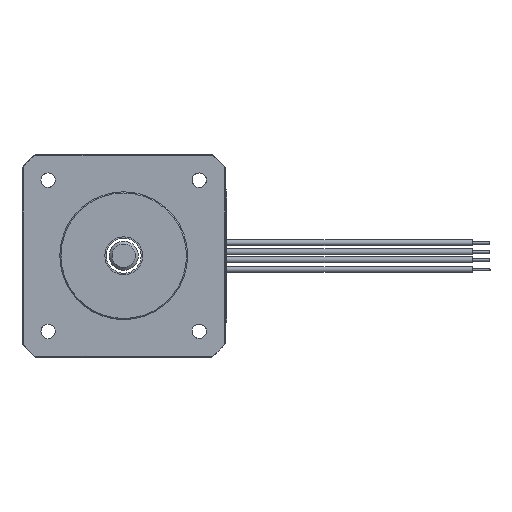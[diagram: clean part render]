
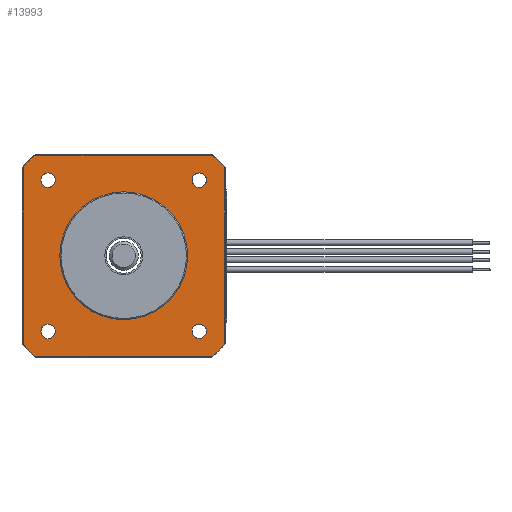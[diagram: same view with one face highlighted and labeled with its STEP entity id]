
A CAD part, left-side view. The second image highlights one B-rep face of the part: STEP entity #13993.
In plain terms, the highlighted planar face has unit normal (-1, 0, 0).
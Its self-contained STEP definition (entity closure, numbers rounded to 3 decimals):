
#12222=CARTESIAN_POINT('',(2.,-17.3,15.308));
#12223=VERTEX_POINT('',#12222);
#12224=CARTESIAN_POINT('',(2.,-17.3,-15.308));
#12225=VERTEX_POINT('',#12224);
#12226=CARTESIAN_POINT('',(2.,-17.3,15.308));
#12227=DIRECTION('',(0.,0.,-1.));
#12228=VECTOR('',#12227,30.615);
#12229=LINE('',#12226,#12228);
#12230=EDGE_CURVE('',#12223,#12225,#12229,.T.);
#12253=CARTESIAN_POINT('',(2.,-15.308,-17.3));
#12254=VERTEX_POINT('',#12253);
#12265=CARTESIAN_POINT('',(2.,0.,0.));
#12266=DIRECTION('',(0.,-0.749,-0.663));
#12267=DIRECTION('',(1.,0.,0.));
#12268=AXIS2_PLACEMENT_3D('',#12265,#12267,#12266);
#12269=CIRCLE('',#12268,23.1);
#12270=EDGE_CURVE('',#12225,#12254,#12269,.T.);
#12451=CARTESIAN_POINT('',(2.,-15.308,17.3));
#12452=VERTEX_POINT('',#12451);
#12459=CARTESIAN_POINT('',(2.,0.,0.));
#12460=DIRECTION('',(0.,-0.663,0.749));
#12461=DIRECTION('',(1.,0.,0.));
#12462=AXIS2_PLACEMENT_3D('',#12459,#12461,#12460);
#12463=CIRCLE('',#12462,23.1);
#12464=EDGE_CURVE('',#12452,#12223,#12463,.T.);
#12474=CARTESIAN_POINT('',(2.,-11.75,-13.));
#12475=VERTEX_POINT('',#12474);
#12482=CARTESIAN_POINT('',(2.,-14.25,-13.));
#12483=VERTEX_POINT('',#12482);
#12484=CARTESIAN_POINT('',(2.,-13.,-13.));
#12485=DIRECTION('',(0.,1.,0.));
#12486=DIRECTION('',(-1.,-0.,0.));
#12487=AXIS2_PLACEMENT_3D('',#12484,#12486,#12485);
#12488=CIRCLE('',#12487,1.25);
#12489=EDGE_CURVE('',#12475,#12483,#12488,.T.);
#12511=CARTESIAN_POINT('',(2.,-13.,-13.));
#12512=DIRECTION('',(0.,-1.,0.));
#12513=DIRECTION('',(-1.,0.,0.));
#12514=AXIS2_PLACEMENT_3D('',#12511,#12513,#12512);
#12515=CIRCLE('',#12514,1.25);
#12516=EDGE_CURVE('',#12483,#12475,#12515,.T.);
#12528=CARTESIAN_POINT('',(2.,15.308,-17.3));
#12529=VERTEX_POINT('',#12528);
#12530=CARTESIAN_POINT('',(2.,-15.308,-17.3));
#12531=DIRECTION('',(0.,1.,0.));
#12532=VECTOR('',#12531,30.615);
#12533=LINE('',#12530,#12532);
#12534=EDGE_CURVE('',#12254,#12529,#12533,.T.);
#12552=CARTESIAN_POINT('',(2.,17.3,-15.308));
#12553=VERTEX_POINT('',#12552);
#12571=CARTESIAN_POINT('',(2.,0.,0.));
#12572=DIRECTION('',(0.,0.663,-0.749));
#12573=DIRECTION('',(1.,0.,0.));
#12574=AXIS2_PLACEMENT_3D('',#12571,#12573,#12572);
#12575=CIRCLE('',#12574,23.1);
#12576=EDGE_CURVE('',#12529,#12553,#12575,.T.);
#12649=CARTESIAN_POINT('',(2.,13.,-11.75));
#12650=VERTEX_POINT('',#12649);
#12657=CARTESIAN_POINT('',(2.,13.,-14.25));
#12658=VERTEX_POINT('',#12657);
#12659=CARTESIAN_POINT('',(2.,13.,-13.));
#12660=DIRECTION('',(0.,0.,1.));
#12661=DIRECTION('',(-1.,0.,-0.));
#12662=AXIS2_PLACEMENT_3D('',#12659,#12661,#12660);
#12663=CIRCLE('',#12662,1.25);
#12664=EDGE_CURVE('',#12650,#12658,#12663,.T.);
#12686=CARTESIAN_POINT('',(2.,13.,-13.));
#12687=DIRECTION('',(0.,0.,-1.));
#12688=DIRECTION('',(-1.,0.,0.));
#12689=AXIS2_PLACEMENT_3D('',#12686,#12688,#12687);
#12690=CIRCLE('',#12689,1.25);
#12691=EDGE_CURVE('',#12658,#12650,#12690,.T.);
#12723=CARTESIAN_POINT('',(2.,11.75,13.));
#12724=VERTEX_POINT('',#12723);
#12731=CARTESIAN_POINT('',(2.,14.25,13.));
#12732=VERTEX_POINT('',#12731);
#12733=CARTESIAN_POINT('',(2.,13.,13.));
#12734=DIRECTION('',(0.,-1.,0.));
#12735=DIRECTION('',(-1.,0.,0.));
#12736=AXIS2_PLACEMENT_3D('',#12733,#12735,#12734);
#12737=CIRCLE('',#12736,1.25);
#12738=EDGE_CURVE('',#12724,#12732,#12737,.T.);
#12760=CARTESIAN_POINT('',(2.,13.,13.));
#12761=DIRECTION('',(0.,1.,0.));
#12762=DIRECTION('',(-1.,0.,0.));
#12763=AXIS2_PLACEMENT_3D('',#12760,#12762,#12761);
#12764=CIRCLE('',#12763,1.25);
#12765=EDGE_CURVE('',#12732,#12724,#12764,.T.);
#12879=CARTESIAN_POINT('',(2.,-13.,11.75));
#12880=VERTEX_POINT('',#12879);
#12887=CARTESIAN_POINT('',(2.,-13.,14.25));
#12888=VERTEX_POINT('',#12887);
#12889=CARTESIAN_POINT('',(2.,-13.,13.));
#12890=DIRECTION('',(0.,0.,-1.));
#12891=DIRECTION('',(-1.,0.,0.));
#12892=AXIS2_PLACEMENT_3D('',#12889,#12891,#12890);
#12893=CIRCLE('',#12892,1.25);
#12894=EDGE_CURVE('',#12880,#12888,#12893,.T.);
#12916=CARTESIAN_POINT('',(2.,-13.,13.));
#12917=DIRECTION('',(0.,0.,1.));
#12918=DIRECTION('',(-1.,0.,0.));
#12919=AXIS2_PLACEMENT_3D('',#12916,#12918,#12917);
#12920=CIRCLE('',#12919,1.25);
#12921=EDGE_CURVE('',#12888,#12880,#12920,.T.);
#13922=CARTESIAN_POINT('',(2.,0.,0.));
#13923=DIRECTION('',(0.,0.,-1.));
#13924=DIRECTION('',(-1.,-0.,-0.));
#13925=AXIS2_PLACEMENT_3D('',#13922,#13924,#13923);
#13926=PLANE('',#13925);
#13927=CARTESIAN_POINT('',(2.,17.3,15.308));
#13928=VERTEX_POINT('',#13927);
#13929=CARTESIAN_POINT('',(2.,17.3,15.308));
#13930=DIRECTION('',(0.,0.,-1.));
#13931=VECTOR('',#13930,30.615);
#13932=LINE('',#13929,#13931);
#13933=EDGE_CURVE('',#13928,#12553,#13932,.T.);
#13934=ORIENTED_EDGE('E1236',*,*,#13933,.T.);
#13935=ORIENTED_EDGE('E1236',*,*,#12576,.F.);
#13936=ORIENTED_EDGE('E1236',*,*,#12534,.F.);
#13937=ORIENTED_EDGE('E1236',*,*,#12270,.F.);
#13938=ORIENTED_EDGE('E1236',*,*,#12230,.F.);
#13939=ORIENTED_EDGE('E1236',*,*,#12464,.F.);
#13940=CARTESIAN_POINT('',(2.,15.308,17.3));
#13941=VERTEX_POINT('',#13940);
#13942=CARTESIAN_POINT('',(2.,-15.308,17.3));
#13943=DIRECTION('',(0.,1.,0.));
#13944=VECTOR('',#13943,30.615);
#13945=LINE('',#13942,#13944);
#13946=EDGE_CURVE('',#12452,#13941,#13945,.T.);
#13947=ORIENTED_EDGE('E1237',*,*,#13946,.T.);
#13948=CARTESIAN_POINT('',(2.,0.,0.));
#13949=DIRECTION('',(0.,0.663,0.749));
#13950=DIRECTION('',(-1.,0.,0.));
#13951=AXIS2_PLACEMENT_3D('',#13948,#13950,#13949);
#13952=CIRCLE('',#13951,23.1);
#13953=EDGE_CURVE('',#13941,#13928,#13952,.T.);
#13954=ORIENTED_EDGE('E1238',*,*,#13953,.T.);
#13955=EDGE_LOOP('',(#13934,#13935,#13936,#13937,#13938,#13939,#13947,#13954));
#13956=FACE_OUTER_BOUND('',#13955,.T.);
#13957=CARTESIAN_POINT('',(2.,11.,0.));
#13958=VERTEX_POINT('',#13957);
#13959=CARTESIAN_POINT('',(2.,-11.,0.));
#13960=VERTEX_POINT('',#13959);
#13961=CARTESIAN_POINT('',(2.,0.,0.));
#13962=DIRECTION('',(0.,1.,0.));
#13963=DIRECTION('',(1.,0.,0.));
#13964=AXIS2_PLACEMENT_3D('',#13961,#13963,#13962);
#13965=CIRCLE('',#13964,11.);
#13966=EDGE_CURVE('',#13958,#13960,#13965,.T.);
#13967=ORIENTED_EDGE('E1239',*,*,#13966,.T.);
#13968=CARTESIAN_POINT('',(2.,0.,0.));
#13969=DIRECTION('',(0.,-1.,0.));
#13970=DIRECTION('',(1.,-0.,0.));
#13971=AXIS2_PLACEMENT_3D('',#13968,#13970,#13969);
#13972=CIRCLE('',#13971,11.);
#13973=EDGE_CURVE('',#13960,#13958,#13972,.T.);
#13974=ORIENTED_EDGE('E1240',*,*,#13973,.T.);
#13975=EDGE_LOOP('',(#13967,#13974));
#13976=FACE_BOUND('',#13975,.T.);
#13977=ORIENTED_EDGE('',*,*,#12516,.F.);
#13978=ORIENTED_EDGE('',*,*,#12489,.F.);
#13979=EDGE_LOOP('',(#13977,#13978));
#13980=FACE_BOUND('',#13979,.T.);
#13981=ORIENTED_EDGE('',*,*,#12691,.F.);
#13982=ORIENTED_EDGE('',*,*,#12664,.F.);
#13983=EDGE_LOOP('',(#13981,#13982));
#13984=FACE_BOUND('',#13983,.T.);
#13985=ORIENTED_EDGE('',*,*,#12765,.F.);
#13986=ORIENTED_EDGE('',*,*,#12738,.F.);
#13987=EDGE_LOOP('',(#13985,#13986));
#13988=FACE_BOUND('',#13987,.T.);
#13989=ORIENTED_EDGE('',*,*,#12921,.F.);
#13990=ORIENTED_EDGE('',*,*,#12894,.F.);
#13991=EDGE_LOOP('',(#13989,#13990));
#13992=FACE_BOUND('',#13991,.T.);
#13993=ADVANCED_FACE('F379',(#13956,#13976,#13980,#13984,#13988,#13992),#13926,.T.);
